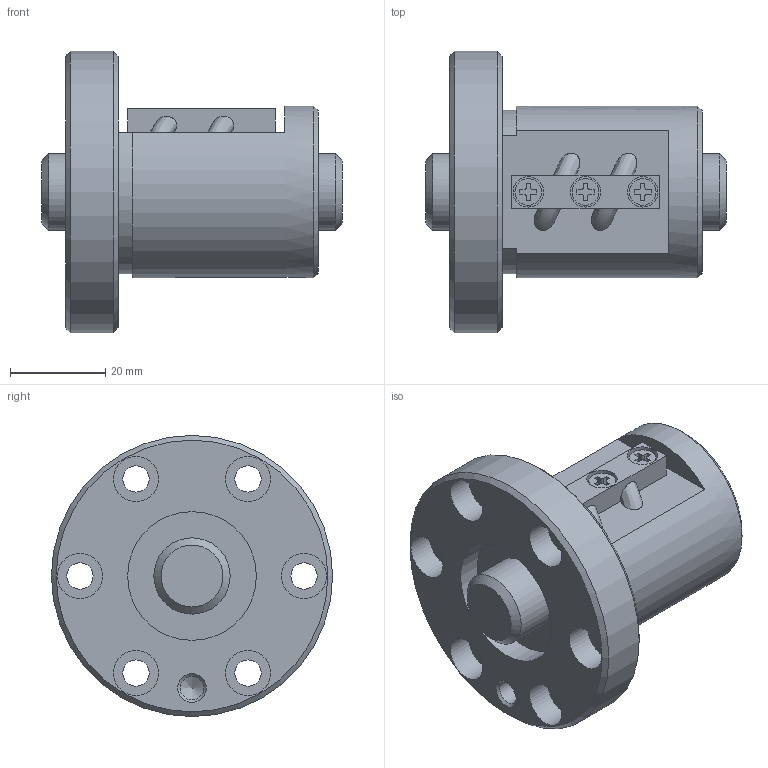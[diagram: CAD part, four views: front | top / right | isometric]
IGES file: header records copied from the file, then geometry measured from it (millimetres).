
Start section: Data from Parasolid IGES Translator 26.0.171, Copyright(c) 2006 Siemens PLM Software. All Rights Reserved.
Global section: file name: SBN1604V-5G0+63LC0(0000).igs; native system: By Siemens PLM Incorporated; preprocessor: XPlus GENERIC/IGES 26.0.171; author: Noname; organization: Noname; date: 20240528.102350; units: millimetre
Bounding box: 63 x 59 x 59 mm (x, y, z)
Surface area: 20406.9 mm2 (no closed solid volume)
Topology: 0 solids, 0 shells, 122 faces, 571 edges, 514 vertices
Faces by surface type: extrusion 69, revolution 53
